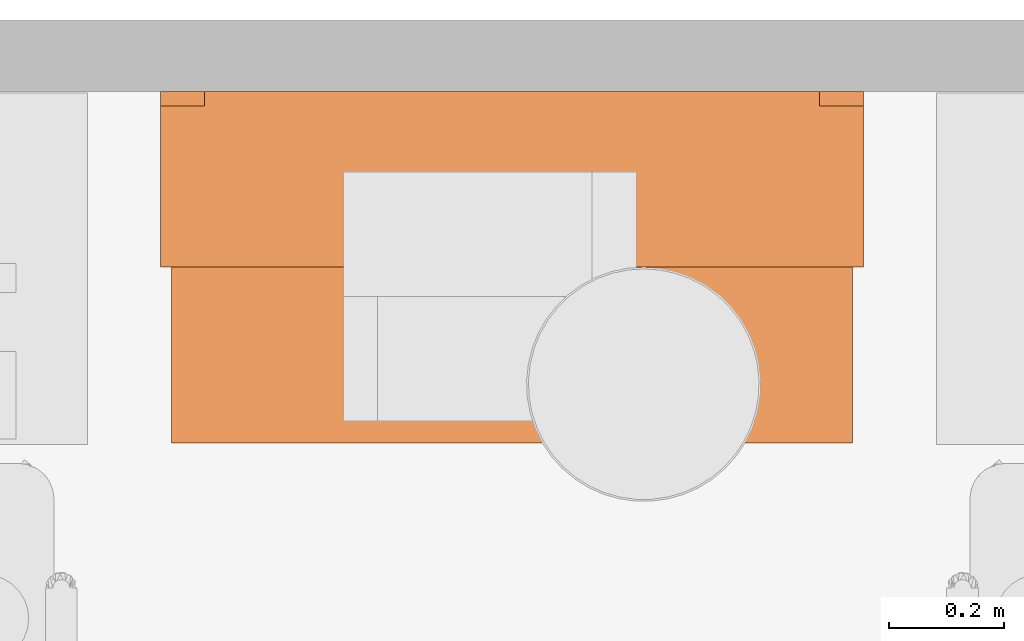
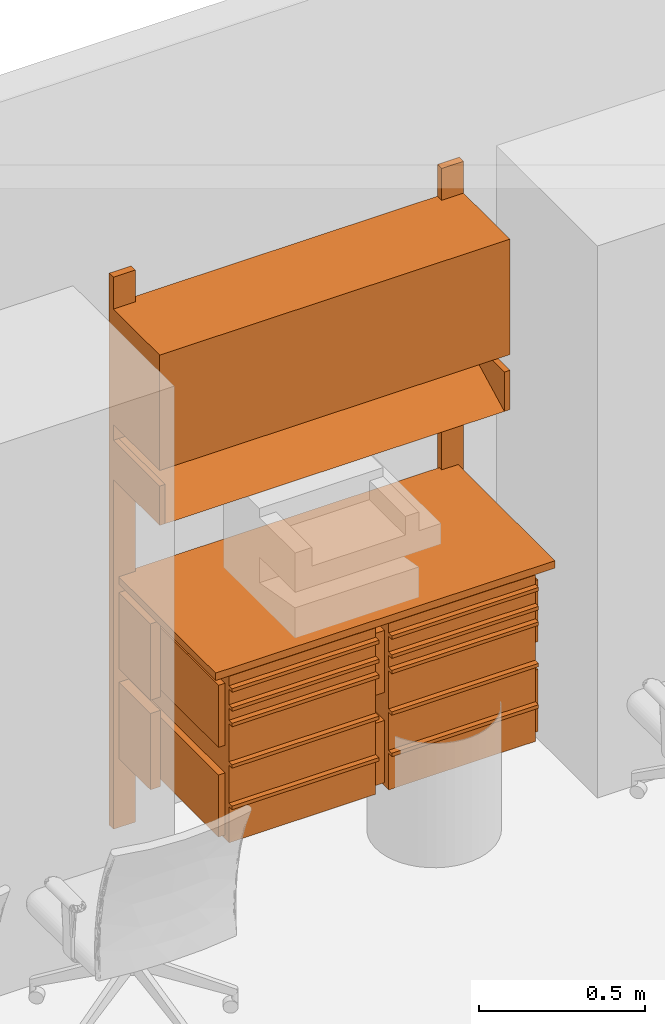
# One storey, part 13 of 15: 1 proxy.
"""IFC2X3 building model written with IfcOpenShell, lengths in feet."""

from ifc_helpers import new_model, entity, si_unit, converted_unit, derived_unit, direction, frame, origin, place, context, subcontext, project, spatial, faceted_brep, source, transform, mapped, material, type_object, type_shapes, element, save


model = new_model("IFC2X3")

# Units and contexts
model_context = context("Model", 3, precision=0.0001, world=origin(), true_north=direction((6.12303176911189e-17, 1.0)))
body_context = subcontext(model_context, "Body", "Model", "MODEL_VIEW")
ifc_project = project(units=[converted_unit("LENGTHUNIT", "FOOT", entity("IfcRatioMeasure", 0.3048), si_unit("LENGTHUNIT", "METRE"), dimensions=[1, 0, 0, 0, 0, 0, 0]), converted_unit("AREAUNIT", "SQUARE FOOT", entity("IfcRatioMeasure", 0.09290304), si_unit("AREAUNIT", "SQUARE_METRE"), dimensions=[2, 0, 0, 0, 0, 0, 0]), converted_unit("VOLUMEUNIT", "CUBIC FOOT", entity("IfcRatioMeasure", 0.028316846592), si_unit("VOLUMEUNIT", "CUBIC_METRE"), dimensions=[3, 0, 0, 0, 0, 0, 0]), converted_unit("PLANEANGLEUNIT", "DEGREE", entity("IfcRatioMeasure", 0.0174532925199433), si_unit("PLANEANGLEUNIT", "RADIAN"), dimensions=[0, 0, 0, 0, 0, 0, 0]), si_unit("MASSUNIT", "GRAM", prefix="KILO"), derived_unit("MASSDENSITYUNIT", [(si_unit("MASSUNIT", "GRAM", prefix="KILO"), 1), (si_unit("LENGTHUNIT", "METRE"), -3)]), si_unit("TIMEUNIT", "SECOND"), si_unit("FREQUENCYUNIT", "HERTZ"), si_unit("THERMODYNAMICTEMPERATUREUNIT", "DEGREE_CELSIUS"), derived_unit("THERMALTRANSMITTANCEUNIT", [(si_unit("MASSUNIT", "GRAM", prefix="KILO"), 1), (si_unit("THERMODYNAMICTEMPERATUREUNIT", "KELVIN"), -1), (si_unit("TIMEUNIT", "SECOND"), -3)]), derived_unit("VOLUMETRICFLOWRATEUNIT", [(si_unit("LENGTHUNIT", "METRE"), 3), (si_unit("TIMEUNIT", "SECOND"), -1)]), si_unit("ELECTRICCURRENTUNIT", "AMPERE"), si_unit("ELECTRICVOLTAGEUNIT", "VOLT"), si_unit("POWERUNIT", "WATT"), si_unit("FORCEUNIT", "NEWTON"), si_unit("ILLUMINANCEUNIT", "LUX"), si_unit("LUMINOUSFLUXUNIT", "LUMEN"), si_unit("LUMINOUSINTENSITYUNIT", "CANDELA"), derived_unit("USERDEFINED", [(si_unit("MASSUNIT", "GRAM", prefix="KILO"), -1), (si_unit("LENGTHUNIT", "METRE"), -2), (si_unit("TIMEUNIT", "SECOND"), 3), (si_unit("LUMINOUSFLUXUNIT", "LUMEN"), 1)]), derived_unit("LINEARVELOCITYUNIT", [(si_unit("LENGTHUNIT", "METRE"), 1), (si_unit("TIMEUNIT", "SECOND"), -1)]), si_unit("PRESSUREUNIT", "PASCAL"), derived_unit("USERDEFINED", [(si_unit("LENGTHUNIT", "METRE"), -2), (si_unit("MASSUNIT", "GRAM", prefix="KILO"), 1), (si_unit("TIMEUNIT", "SECOND"), -2)])], contexts=[model_context])

# Site, building, storey, space
site_placement = place(None, origin())
site = spatial("IfcSite", under=ifc_project, at=site_placement, Name="Default", CompositionType="ELEMENT")
building_placement = place(site_placement, origin())
building = spatial("IfcBuilding", under=site, at=building_placement, Name="EYE CLINIC:  OPTHALMOLOGY AND OPTOMETRY SERVICES (Ch. 233)", CompositionType="ELEMENT")
storey_placement = place(building_placement, origin())
storey = spatial("IfcBuildingStorey", under=building, at=storey_placement, Name="DATUM", CompositionType="ELEMENT", Elevation=0.0)
space_placement = place(storey_placement, origin())
space = spatial("IfcSpace", under=storey, at=space_placement, Name="(OPLV2)", CompositionType="ELEMENT", InteriorOrExteriorSpace="INTERNAL")

# Proxy
ifc_material = material(Name="Wall Material (1)")
building_element_proxy_type = type_object("IfcBuildingElementProxyType", Name="E0212 - Worksurface, with Overhd Cab & Drwrs, Wall Mtd, 48 W (1)", PredefinedType="NOTDEFINED", material=ifc_material)
shared_shape = source(origin(), body_context, "Body", "Brep", [
    faceted_brep([(1.99961053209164, 0.0, 4.69917200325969), (1.99961053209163, 1.0, 4.69917200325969), (1.93797634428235, 1.0, 4.69917200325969), (1.93797634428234, 0.0833333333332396, 4.69917200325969), (-1.93797634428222, 0.0833333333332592, 4.69917200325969), (-1.93797634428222, 1.0, 4.69917200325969), (-2.00038946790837, 1.0, 4.69917200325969), (-2.00038946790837, 0.0, 4.69917200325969), (1.99961053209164, 0.0, 4.22421445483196), (-2.00038946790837, 0.0, 4.22421445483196), (-2.00038946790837, 1.0, 4.22421445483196), (-1.93797634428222, 1.0, 4.22421445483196), (1.93797634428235, 1.0, 4.22421445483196), (1.99961053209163, 1.0, 4.22421445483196)], [[[0, 1, 2, 3, 4, 5, 6, 7]], [[8, 9, 10, 11, 12, 13]], [[1, 0, 8, 13]], [[1, 13, 12, 2]], [[7, 6, 10, 9]], [[0, 7, 9, 8]], [[12, 3, 2]], [[4, 11, 5]], [[3, 12, 11, 4]], [[10, 6, 5, 11]]]),
    faceted_brep([(1.99961053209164, 0.0, 6.28250533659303), (1.99961053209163, 1.0, 6.28250533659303), (-2.00038946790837, 1.0, 6.28250533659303), (-2.00038946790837, 0.0, 6.28250533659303), (1.99961053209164, 0.0, 4.88895431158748), (-2.00038946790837, 0.0, 4.88895431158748), (-2.00038946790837, 1.0, 4.88895431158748), (1.99961053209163, 1.0, 4.88895431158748)], [[[0, 1, 2, 3]], [[4, 5, 6, 7]], [[1, 0, 4, 7]], [[2, 1, 7, 6]], [[3, 2, 6, 5]], [[0, 3, 5, 4]]]),
    faceted_brep([(1.74961053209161, 2.0, 1.35416666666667), (1.74961053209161, 1.93749999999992, 1.35416666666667), (1.74961053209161, 1.93749999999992, 1.3125), (1.74961053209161, 2.0, 1.3125), (0.0736147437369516, 2.0, 1.35416666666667), (0.0736147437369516, 2.0, 1.3125), (0.0736147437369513, 1.93749999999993, 1.3125), (0.0736147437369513, 1.93749999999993, 1.35416666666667)], [[[0, 1, 2, 3]], [[4, 5, 6, 7]], [[1, 0, 4, 7]], [[2, 1, 7, 6]], [[3, 2, 6, 5]], [[0, 3, 5, 4]]]),
    faceted_brep([(-1.75038946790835, 2.0, 1.35416666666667), (-1.75038946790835, 2.0, 1.3125), (-1.75038946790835, 1.93749999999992, 1.3125), (-1.75038946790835, 1.93749999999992, 1.35416666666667), (-0.0743936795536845, 2.0, 1.35416666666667), (-0.0743936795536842, 1.93749999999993, 1.35416666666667), (-0.0743936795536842, 1.93749999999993, 1.3125), (-0.0743936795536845, 2.0, 1.3125)], [[[0, 1, 2, 3]], [[4, 5, 6, 7]], [[0, 3, 5, 4]], [[3, 2, 6, 5]], [[2, 1, 7, 6]], [[1, 0, 4, 7]]]),
    faceted_brep([(-1.75038946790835, 2.0, 1.85416666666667), (-1.75038946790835, 2.0, 1.8125), (-1.75038946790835, 1.93749999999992, 1.8125), (-1.75038946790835, 1.93749999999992, 1.85416666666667), (-0.074393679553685, 2.0, 1.85416666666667), (-0.0743936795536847, 1.93749999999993, 1.85416666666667), (-0.0743936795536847, 1.93749999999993, 1.8125), (-0.074393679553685, 2.0, 1.8125)], [[[0, 1, 2, 3]], [[4, 5, 6, 7]], [[0, 3, 5, 4]], [[3, 2, 6, 5]], [[2, 1, 7, 6]], [[1, 0, 4, 7]]]),
    faceted_brep([(1.74961053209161, 2.0, 1.85416666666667), (1.74961053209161, 1.93749999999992, 1.85416666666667), (1.74961053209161, 1.93749999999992, 1.8125), (1.74961053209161, 2.0, 1.8125), (0.0736147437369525, 2.0, 1.85416666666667), (0.0736147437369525, 2.0, 1.8125), (0.0736147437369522, 1.93749999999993, 1.8125), (0.0736147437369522, 1.93749999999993, 1.85416666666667)], [[[0, 1, 2, 3]], [[4, 5, 6, 7]], [[1, 0, 4, 7]], [[2, 1, 7, 6]], [[3, 2, 6, 5]], [[0, 3, 5, 4]]]),
    faceted_brep([(1.74961053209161, 2.0, 2.35416666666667), (1.74961053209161, 1.93749999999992, 2.35416666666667), (1.74961053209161, 1.93749999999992, 2.3125), (1.74961053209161, 2.0, 2.3125), (0.0736147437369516, 2.0, 2.35416666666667), (0.0736147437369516, 2.0, 2.3125), (0.0736147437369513, 1.93749999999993, 2.3125), (0.0736147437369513, 1.93749999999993, 2.35416666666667)], [[[0, 1, 2, 3]], [[4, 5, 6, 7]], [[1, 0, 4, 7]], [[2, 1, 7, 6]], [[3, 2, 6, 5]], [[0, 3, 5, 4]]]),
    faceted_brep([(-1.75038946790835, 2.0, 2.35416666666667), (-1.75038946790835, 2.0, 2.3125), (-1.75038946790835, 1.93749999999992, 2.3125), (-1.75038946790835, 1.93749999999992, 2.35416666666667), (-0.0743936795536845, 2.0, 2.35416666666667), (-0.0743936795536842, 1.93749999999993, 2.35416666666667), (-0.0743936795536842, 1.93749999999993, 2.3125), (-0.0743936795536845, 2.0, 2.3125)], [[[0, 1, 2, 3]], [[4, 5, 6, 7]], [[0, 3, 5, 4]], [[3, 2, 6, 5]], [[2, 1, 7, 6]], [[1, 0, 4, 7]]]),
    faceted_brep([(-1.75038946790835, 2.0, 2.54166666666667), (-1.75038946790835, 2.0, 2.5), (-1.75038946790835, 1.93749999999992, 2.5), (-1.75038946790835, 1.93749999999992, 2.54166666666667), (-0.0743936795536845, 2.0, 2.54166666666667), (-0.0743936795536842, 1.93749999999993, 2.54166666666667), (-0.0743936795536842, 1.93749999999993, 2.5), (-0.0743936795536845, 2.0, 2.5)], [[[0, 1, 2, 3]], [[4, 5, 6, 7]], [[0, 3, 5, 4]], [[3, 2, 6, 5]], [[2, 1, 7, 6]], [[1, 0, 4, 7]]]),
    faceted_brep([(1.74961053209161, 2.0, 2.54166666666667), (1.74961053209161, 1.93749999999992, 2.54166666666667), (1.74961053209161, 1.93749999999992, 2.5), (1.74961053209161, 2.0, 2.5), (0.073614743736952, 2.0, 2.54166666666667), (0.073614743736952, 2.0, 2.5), (0.0736147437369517, 1.93749999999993, 2.5), (0.0736147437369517, 1.93749999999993, 2.54166666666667)], [[[0, 1, 2, 3]], [[4, 5, 6, 7]], [[1, 0, 4, 7]], [[2, 1, 7, 6]], [[3, 2, 6, 5]], [[0, 3, 5, 4]]]),
    faceted_brep([(-1.75038946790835, 2.0, 2.77083333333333), (-1.75038946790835, 2.0, 2.72916666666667), (-1.75038946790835, 1.93749999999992, 2.72916666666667), (-1.75038946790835, 1.93749999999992, 2.77083333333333), (-0.0743936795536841, 2.0, 2.77083333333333), (-0.0743936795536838, 1.93749999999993, 2.77083333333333), (-0.0743936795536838, 1.93749999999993, 2.72916666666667), (-0.0743936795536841, 2.0, 2.72916666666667)], [[[0, 1, 2, 3]], [[4, 5, 6, 7]], [[0, 3, 5, 4]], [[3, 2, 6, 5]], [[2, 1, 7, 6]], [[1, 0, 4, 7]]]),
    faceted_brep([(1.74961053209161, 2.0, 2.77083333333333), (1.74961053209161, 1.93749999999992, 2.77083333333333), (1.74961053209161, 1.93749999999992, 2.72916666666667), (1.74961053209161, 2.0, 2.72916666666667), (0.0736147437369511, 2.0, 2.77083333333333), (0.0736147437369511, 2.0, 2.72916666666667), (0.0736147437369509, 1.93749999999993, 2.72916666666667), (0.0736147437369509, 1.93749999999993, 2.77083333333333)], [[[0, 1, 2, 3]], [[4, 5, 6, 7]], [[1, 0, 4, 7]], [[2, 1, 7, 6]], [[3, 2, 6, 5]], [[0, 3, 5, 4]]]),
    faceted_brep([(-1.75038946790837, 0.0833333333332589, 2.88393908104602), (-0.074393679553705, 0.0833333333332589, 2.88393908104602), (-0.074393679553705, 1.93749999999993, 2.88393908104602), (-1.75038946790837, 1.93749999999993, 2.88393908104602), (-1.75038946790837, 0.0833333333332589, 0.873704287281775), (-1.75038946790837, 1.93749999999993, 0.873704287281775), (-0.074393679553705, 1.93749999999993, 0.873704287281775), (-0.074393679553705, 0.0833333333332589, 0.873704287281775)], [[[0, 1, 2, 3]], [[4, 5, 6, 7]], [[0, 3, 5, 4]], [[3, 2, 6, 5]], [[2, 1, 7, 6]], [[1, 0, 4, 7]]]),
    faceted_brep([(1.74961053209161, 0.0833333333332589, 2.88393908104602), (1.74961053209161, 1.93749999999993, 2.88393908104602), (0.0736147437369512, 1.93749999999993, 2.88393908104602), (0.0736147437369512, 0.0833333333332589, 2.88393908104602), (1.74961053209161, 0.0833333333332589, 0.873704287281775), (0.0736147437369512, 0.0833333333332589, 0.873704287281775), (0.0736147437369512, 1.93749999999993, 0.873704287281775), (1.74961053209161, 1.93749999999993, 0.873704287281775)], [[[0, 1, 2, 3]], [[4, 5, 6, 7]], [[1, 0, 4, 7]], [[2, 1, 7, 6]], [[3, 2, 6, 5]], [[0, 3, 5, 4]]]),
    faceted_brep([(0.0736147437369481, 0.0833333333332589, 1.66666666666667), (-0.000389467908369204, 0.0833333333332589, 1.66666666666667), (-0.00038946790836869, 0.0833333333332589, 0.916666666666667), (0.0736147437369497, 0.0833333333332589, 0.916666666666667), (0.0736147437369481, 1.85910958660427, 1.66666666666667), (0.0736147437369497, 1.85910958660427, 0.916666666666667), (-0.00038946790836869, 1.85910958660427, 0.916666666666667), (-0.000389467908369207, 1.85910958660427, 1.66666666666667)], [[[0, 1, 2, 3]], [[4, 5, 6, 7]], [[1, 0, 4, 7]], [[2, 1, 7, 6]], [[3, 2, 6, 5]], [[0, 3, 5, 4]]]),
    faceted_brep([(0.0736147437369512, 0.0833333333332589, 2.75436800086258), (-0.000389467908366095, 0.0833333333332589, 2.75436800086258), (-0.000389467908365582, 0.0833333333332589, 2.00436800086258), (0.0736147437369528, 0.0833333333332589, 2.00436800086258), (0.0736147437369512, 1.85910958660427, 2.75436800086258), (0.0736147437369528, 1.85910958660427, 2.00436800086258), (-0.000389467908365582, 1.85910958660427, 2.00436800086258), (-0.000389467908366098, 1.85910958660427, 2.75436800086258)], [[[0, 1, 2, 3]], [[4, 5, 6, 7]], [[1, 0, 4, 7]], [[2, 1, 7, 6]], [[3, 2, 6, 5]], [[0, 3, 5, 4]]]),
    faceted_brep([(-0.0743936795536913, 0.0833333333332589, 1.66666666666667), (-0.0743936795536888, 0.0833333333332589, 0.916666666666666), (-0.000389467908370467, 0.0833333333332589, 0.916666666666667), (-0.000389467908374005, 0.0833333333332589, 1.66666666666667), (-0.0743936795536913, 1.85910958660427, 1.66666666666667), (-0.000389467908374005, 1.85910958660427, 1.66666666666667), (-0.000389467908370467, 1.85910958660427, 0.916666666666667), (-0.0743936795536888, 1.85910958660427, 0.916666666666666)], [[[0, 1, 2, 3]], [[4, 5, 6, 7]], [[0, 3, 5, 4]], [[3, 2, 6, 5]], [[2, 1, 7, 6]], [[1, 0, 4, 7]]]),
    faceted_brep([(-0.0743936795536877, 0.0833333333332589, 2.75436800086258), (-0.0743936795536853, 0.0833333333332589, 2.00436800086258), (-0.000389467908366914, 0.0833333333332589, 2.00436800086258), (-0.000389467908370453, 0.0833333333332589, 2.75436800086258), (-0.0743936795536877, 1.85910958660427, 2.75436800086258), (-0.000389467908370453, 1.85910958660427, 2.75436800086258), (-0.000389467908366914, 1.85910958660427, 2.00436800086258), (-0.0743936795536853, 1.85910958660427, 2.00436800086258)], [[[0, 1, 2, 3]], [[4, 5, 6, 7]], [[0, 3, 5, 4]], [[3, 2, 6, 5]], [[2, 1, 7, 6]], [[1, 0, 4, 7]]]),
    faceted_brep([(1.74961053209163, 0.0833333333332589, 1.67103466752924), (1.74961053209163, 0.0833333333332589, 0.921034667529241), (1.82361474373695, 0.0833333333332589, 0.921034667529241), (1.82361474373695, 0.0833333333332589, 1.67103466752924), (1.74961053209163, 1.85910958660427, 1.67103466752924), (1.82361474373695, 1.85910958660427, 1.67103466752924), (1.82361474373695, 1.85910958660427, 0.921034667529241), (1.74961053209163, 1.85910958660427, 0.921034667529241)], [[[0, 1, 2, 3]], [[4, 5, 6, 7]], [[0, 3, 5, 4]], [[3, 2, 6, 5]], [[2, 1, 7, 6]], [[1, 0, 4, 7]]]),
    faceted_brep([(1.74961053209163, 0.0833333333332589, 2.75436800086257), (1.74961053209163, 0.0833333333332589, 2.00436800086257), (1.82361474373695, 0.0833333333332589, 2.00436800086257), (1.82361474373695, 0.0833333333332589, 2.75436800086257), (1.74961053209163, 1.85910958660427, 2.75436800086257), (1.82361474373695, 1.85910958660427, 2.75436800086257), (1.82361474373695, 1.85910958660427, 2.00436800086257), (1.74961053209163, 1.85910958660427, 2.00436800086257)], [[[0, 1, 2, 3]], [[4, 5, 6, 7]], [[0, 3, 5, 4]], [[3, 2, 6, 5]], [[2, 1, 7, 6]], [[1, 0, 4, 7]]]),
    faceted_brep([(1.93719740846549, 0.708333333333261, 1.75436800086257), (1.82361474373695, 0.70833333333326, 1.75436800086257), (1.82361474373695, 0.0833333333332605, 1.75436800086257), (1.93719740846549, 0.0833333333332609, 1.75436800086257), (1.93719740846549, 0.708333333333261, 0.833342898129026), (1.93719740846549, 0.0833333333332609, 0.833342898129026), (1.82361474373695, 0.0833333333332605, 0.833342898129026), (1.82361474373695, 0.70833333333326, 0.833342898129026)], [[[0, 1, 2, 3]], [[4, 5, 6, 7]], [[0, 3, 5, 4]], [[3, 2, 6, 5]], [[2, 1, 7, 6]], [[1, 0, 4, 7]]]),
    faceted_brep([(1.93719740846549, 0.708333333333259, 2.83770133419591), (1.82361474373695, 0.708333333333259, 2.83770133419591), (1.82361474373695, 0.0833333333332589, 2.83770133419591), (1.93719740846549, 0.0833333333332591, 2.83770133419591), (1.93719740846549, 0.708333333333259, 1.91667623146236), (1.93719740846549, 0.0833333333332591, 1.91667623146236), (1.82361474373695, 0.0833333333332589, 1.91667623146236), (1.82361474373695, 0.708333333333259, 1.91667623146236)], [[[0, 1, 2, 3]], [[4, 5, 6, 7]], [[0, 3, 5, 4]], [[3, 2, 6, 5]], [[2, 1, 7, 6]], [[1, 0, 4, 7]]]),
    faceted_brep([(-1.75038946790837, 0.0833333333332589, 1.67103466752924), (-1.82439367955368, 0.0833333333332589, 1.67103466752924), (-1.82439367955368, 0.0833333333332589, 0.921034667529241), (-1.75038946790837, 0.0833333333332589, 0.921034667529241), (-1.75038946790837, 1.85910958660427, 1.67103466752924), (-1.75038946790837, 1.85910958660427, 0.921034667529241), (-1.82439367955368, 1.85910958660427, 0.921034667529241), (-1.82439367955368, 1.85910958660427, 1.67103466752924)], [[[0, 1, 2, 3]], [[4, 5, 6, 7]], [[1, 0, 4, 7]], [[2, 1, 7, 6]], [[3, 2, 6, 5]], [[0, 3, 5, 4]]]),
    faceted_brep([(-1.75038946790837, 0.0833333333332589, 2.75436800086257), (-1.82439367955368, 0.0833333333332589, 2.75436800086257), (-1.82439367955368, 0.0833333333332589, 2.00436800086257), (-1.75038946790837, 0.0833333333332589, 2.00436800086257), (-1.75038946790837, 1.85910958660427, 2.75436800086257), (-1.75038946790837, 1.85910958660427, 2.00436800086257), (-1.82439367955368, 1.85910958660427, 2.00436800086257), (-1.82439367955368, 1.85910958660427, 2.75436800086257)], [[[0, 1, 2, 3]], [[4, 5, 6, 7]], [[1, 0, 4, 7]], [[2, 1, 7, 6]], [[3, 2, 6, 5]], [[0, 3, 5, 4]]]),
    faceted_brep([(-1.93797634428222, 0.708333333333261, 1.75436800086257), (-1.93797634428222, 0.0833333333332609, 1.75436800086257), (-1.82439367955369, 0.0833333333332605, 1.75436800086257), (-1.82439367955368, 0.70833333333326, 1.75436800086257), (-1.93797634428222, 0.708333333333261, 0.833342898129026), (-1.82439367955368, 0.70833333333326, 0.833342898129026), (-1.82439367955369, 0.0833333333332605, 0.833342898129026), (-1.93797634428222, 0.0833333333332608, 0.833342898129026)], [[[0, 1, 2, 3]], [[4, 5, 6, 7]], [[1, 0, 4, 7]], [[2, 1, 7, 6]], [[3, 2, 6, 5]], [[0, 3, 5, 4]]]),
    faceted_brep([(-1.93797634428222, 0.708333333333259, 2.83770133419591), (-1.93797634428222, 0.0833333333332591, 2.83770133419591), (-1.82439367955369, 0.0833333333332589, 2.83770133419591), (-1.82439367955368, 0.708333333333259, 2.83770133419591), (-1.93797634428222, 0.708333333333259, 1.91667623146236), (-1.82439367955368, 0.708333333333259, 1.91667623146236), (-1.82439367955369, 0.0833333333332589, 1.91667623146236), (-1.93797634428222, 0.0833333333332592, 1.91667623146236)], [[[0, 1, 2, 3]], [[4, 5, 6, 7]], [[1, 0, 4, 7]], [[2, 1, 7, 6]], [[3, 2, 6, 5]], [[0, 3, 5, 4]]]),
    faceted_brep([(1.93797634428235, 0.0366709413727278, 3.02757867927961), (1.93797634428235, 2.0, 3.02757867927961), (-1.93797634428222, 2.0, 3.02757867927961), (-1.93797634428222, 0.036670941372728, 3.02757867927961), (1.93797634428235, 0.0366709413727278, 2.93852886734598), (-1.93797634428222, 0.0366709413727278, 2.93852886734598), (-1.93797634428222, 2.0, 2.93852886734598), (1.93797634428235, 2.0, 2.93852886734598)], [[[0, 1, 2, 3]], [[4, 5, 6, 7]], [[1, 0, 4, 7]], [[2, 1, 7, 6]], [[3, 2, 6, 5]], [[0, 3, 5, 4]]]),
    faceted_brep([(1.74961053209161, 0.0, 6.66666666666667), (1.99961053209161, 0.0, 6.66666666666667), (1.99961053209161, 0.083333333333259, 6.66666666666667), (1.74961053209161, 0.083333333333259, 6.66666666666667), (1.74961053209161, 0.0, 0.0), (1.74961053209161, 0.083333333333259, 0.0), (1.99961053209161, 0.083333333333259, 0.0), (1.99961053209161, 0.0, 0.0)], [[[0, 1, 2, 3]], [[4, 5, 6, 7]], [[0, 3, 5, 4]], [[3, 2, 6, 5]], [[2, 1, 7, 6]], [[1, 0, 4, 7]]]),
    faceted_brep([(-1.75038946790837, 0.0, 6.66666666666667), (-1.75038946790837, 0.083333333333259, 6.66666666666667), (-2.00038946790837, 0.083333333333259, 6.66666666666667), (-2.00038946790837, 0.0, 6.66666666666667), (-1.75038946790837, 0.0, 0.0), (-2.00038946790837, 0.0, 0.0), (-2.00038946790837, 0.083333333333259, 0.0), (-1.75038946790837, 0.083333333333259, 0.0)], [[[0, 1, 2, 3]], [[4, 5, 6, 7]], [[1, 0, 4, 7]], [[2, 1, 7, 6]], [[3, 2, 6, 5]], [[0, 3, 5, 4]]]),
])
type_shapes(building_element_proxy_type, [shared_shape])
proxy_placement = place(space_placement, frame((342.223102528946, 11.3076256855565, 0.0), z_axis=(0.0, 0.0, 1.0), x_axis=(-1.0, 0.0, 0.0)))
element("IfcBuildingElementProxy", 1, at=proxy_placement, inside=space, type_object=building_element_proxy_type, material=ifc_material, Name="E0212 - Worksurface, with Overhd Cab & Drwrs, Wall Mtd, 48 W:E0212 - Worksurface, with Overhd Cab & Drwrs, Wall Mtd, 48 W (1)", ObjectType="E0212 - Worksurface, with Overhd Cab & Drwrs, Wall Mtd, 48 W (1)", context=body_context, shape_type="MappedRepresentation", body=[
    mapped(shared_shape, transform((0.0, 0.0, 0.0), scale=1.0)),
])

save(model, "model.ifc")
